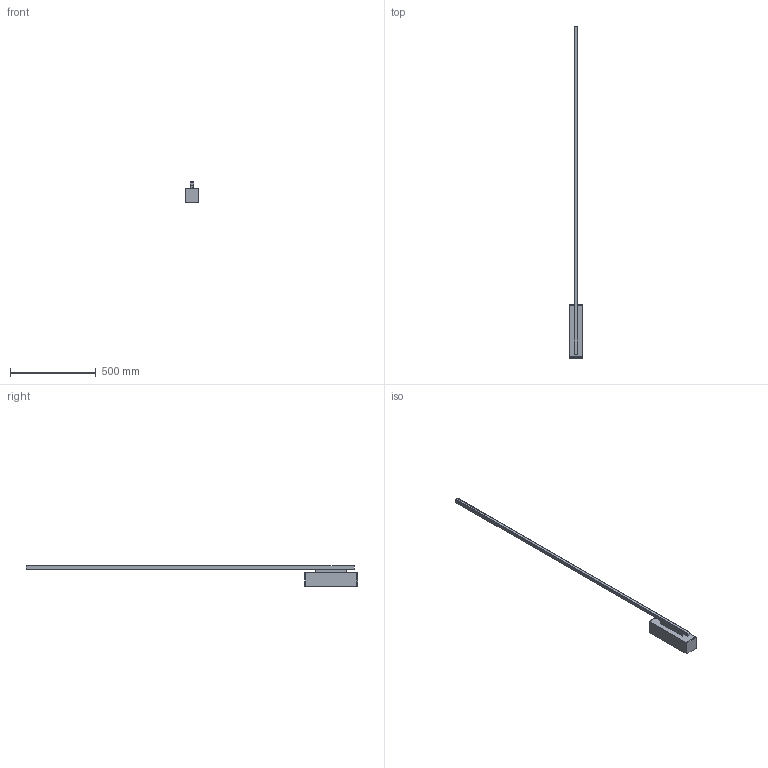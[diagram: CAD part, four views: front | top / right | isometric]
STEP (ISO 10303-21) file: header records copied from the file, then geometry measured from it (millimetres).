
FILE_DESCRIPTION (( 'STEP AP214' ), '1' );
FILE_NAME ('3D_LINESCAPES_FLOOR.STEP', '2018-02-16T10:06:21', ( 'Utente' ), ( '' ), 'SwSTEP 2.0', 'SolidWorks 2016', '' );
FILE_SCHEMA (( 'AUTOMOTIVE_DESIGN' ));
Length unit declared in the file: millimetre
Products named in the file (4): diffusore-1^3D_LINESCAPES_FLOOR; Group3^3D_LINESCAPES_FLOOR; Group1^3D_LINESCAPES_FLOOR; 3D_LINESCAPES_FLOOR
Assembly tree (3 placements, depth 2):
  3D_LINESCAPES_FLOOR
    Group1^3D_LINESCAPES_FLOOR
    Group3^3D_LINESCAPES_FLOOR
    diffusore-1^3D_LINESCAPES_FLOOR
Bounding box: 80 x 1940 x 120 mm (x, y, z)
Volume: 2715207.6 mm3; surface area: 370535.7 mm2
Topology: 4 solids, 4 shells, 77 faces, 180 edges, 112 vertices
Faces by surface type: plane 69, cylinder 8
Entity records: 2604 total; most frequent: CARTESIAN_POINT 399, ORIENTED_EDGE 360, DIRECTION 338, EDGE_CURVE 180, VECTOR 172, LINE 172, VERTEX_POINT 112, AXIS2_PLACEMENT_3D 83
